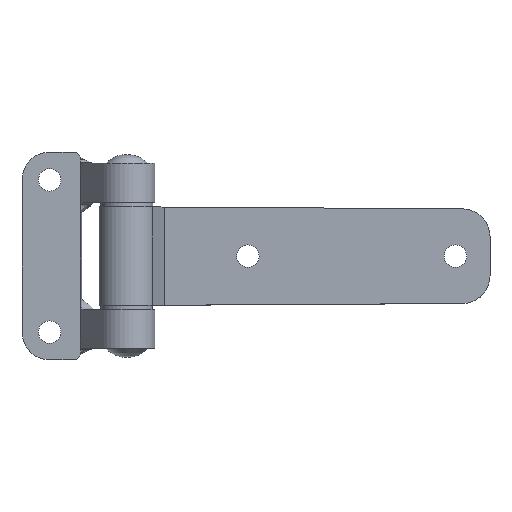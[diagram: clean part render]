
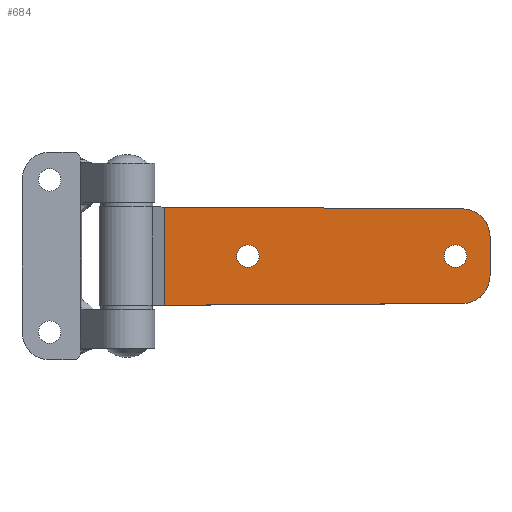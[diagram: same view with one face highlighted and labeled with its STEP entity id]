
A CAD part, top view. The second image highlights one B-rep face of the part: STEP entity #684.
In plain terms, the highlighted planar face has unit normal (0, 0, 1).
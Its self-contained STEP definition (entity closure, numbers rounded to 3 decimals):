
#612 = VERTEX_POINT ( 'NONE', #2694 ) ;
#637 = EDGE_CURVE ( 'NONE', #664, #665, #2574, .T. ) ;
#640 = VERTEX_POINT ( 'NONE', #2568 ) ;
#642 = EDGE_CURVE ( 'NONE', #612, #640, #2561, .T. ) ;
#664 = VERTEX_POINT ( 'NONE', #2690 ) ;
#665 = VERTEX_POINT ( 'NONE', #2685 ) ;
#684 = ADVANCED_FACE ( 'NONE', ( #1978, #1977, #1976 ), #1975, .F. ) ;
#685 = EDGE_CURVE ( 'NONE', #823, #821, #1969, .T. ) ;
#715 = EDGE_CURVE ( 'NONE', #716, #717, #2161, .T. ) ;
#716 = VERTEX_POINT ( 'NONE', #2152 ) ;
#717 = VERTEX_POINT ( 'NONE', #2151 ) ;
#766 = EDGE_CURVE ( 'NONE', #892, #823, #1997, .T. ) ;
#821 = VERTEX_POINT ( 'NONE', #2215 ) ;
#823 = VERTEX_POINT ( 'NONE', #2214 ) ;
#826 = ORIENTED_EDGE ( 'NONE', *, *, #893, .T. ) ;
#831 = EDGE_LOOP ( 'NONE', ( #832, #833 ) ) ;
#832 = ORIENTED_EDGE ( 'NONE', *, *, #715, .F. ) ;
#833 = ORIENTED_EDGE ( 'NONE', *, *, #891, .F. ) ;
#842 = EDGE_LOOP ( 'NONE', ( #917, #919, #940, #826, #843, #844 ) ) ;
#843 = ORIENTED_EDGE ( 'NONE', *, *, #766, .T. ) ;
#844 = ORIENTED_EDGE ( 'NONE', *, *, #685, .T. ) ;
#882 = ORIENTED_EDGE ( 'NONE', *, *, #949, .F. ) ;
#891 = EDGE_CURVE ( 'NONE', #717, #716, #2360, .T. ) ;
#892 = VERTEX_POINT ( 'NONE', #2247 ) ;
#893 = EDGE_CURVE ( 'NONE', #936, #892, #2246, .T. ) ;
#917 = ORIENTED_EDGE ( 'NONE', *, *, #918, .T. ) ;
#918 = EDGE_CURVE ( 'NONE', #821, #612, #2354, .T. ) ;
#919 = ORIENTED_EDGE ( 'NONE', *, *, #642, .T. ) ;
#922 = EDGE_LOOP ( 'NONE', ( #923, #882 ) ) ;
#923 = ORIENTED_EDGE ( 'NONE', *, *, #637, .F. ) ;
#936 = VERTEX_POINT ( 'NONE', #2322 ) ;
#940 = ORIENTED_EDGE ( 'NONE', *, *, #941, .T. ) ;
#941 = EDGE_CURVE ( 'NONE', #640, #936, #2316, .T. ) ;
#949 = EDGE_CURVE ( 'NONE', #665, #664, #2297, .T. ) ;
#1966 = DIRECTION ( 'NONE',  ( 1., 0., 0. ) ) ;
#1967 = DIRECTION ( 'NONE',  ( 0., 0., 1. ) ) ;
#1968 = AXIS2_PLACEMENT_3D ( 'NONE', #1973, #1967, #1966 ) ;
#1969 = CIRCLE ( 'NONE', #1968, 8. ) ;
#1970 = DIRECTION ( 'NONE',  ( -1., 0., 0. ) ) ;
#1971 = DIRECTION ( 'NONE',  ( 0., 0., -1. ) ) ;
#1972 = AXIS2_PLACEMENT_3D ( 'NONE', #1974, #1971, #1970 ) ;
#1973 = CARTESIAN_POINT ( 'NONE',  ( 49.119, 5.696, 4. ) ) ;
#1974 = CARTESIAN_POINT ( 'NONE',  ( 49.119, -5.696, 4. ) ) ;
#1975 = PLANE ( 'NONE',  #1972 ) ;
#1976 = FACE_OUTER_BOUND ( 'NONE', #842, .T. ) ;
#1977 = FACE_BOUND ( 'NONE', #831, .T. ) ;
#1978 = FACE_BOUND ( 'NONE', #922, .T. ) ;
#1994 = DIRECTION ( 'NONE',  ( 0., 1., 0. ) ) ;
#1995 = VECTOR ( 'NONE', #1994, 1000. ) ;
#1996 = CARTESIAN_POINT ( 'NONE',  ( 57.119, 5.696, 4. ) ) ;
#1997 = LINE ( 'NONE', #1996, #1995 ) ;
#2151 = CARTESIAN_POINT ( 'NONE',  ( 50.369, 0., 4. ) ) ;
#2152 = CARTESIAN_POINT ( 'NONE',  ( 43.869, 0., 4. ) ) ;
#2153 = DIRECTION ( 'NONE',  ( 1., 0., 0. ) ) ;
#2154 = DIRECTION ( 'NONE',  ( 0., 0., 1. ) ) ;
#2155 = CARTESIAN_POINT ( 'NONE',  ( 47.119, 0., 4. ) ) ;
#2156 = AXIS2_PLACEMENT_3D ( 'NONE', #2155, #2154, #2153 ) ;
#2161 = CIRCLE ( 'NONE', #2156, 3.25 ) ;
#2185 = DIRECTION ( 'NONE',  ( 1., 0., 0. ) ) ;
#2186 = DIRECTION ( 'NONE',  ( 0., 0., 1. ) ) ;
#2187 = CARTESIAN_POINT ( 'NONE',  ( -12.881, 0., 4. ) ) ;
#2188 = AXIS2_PLACEMENT_3D ( 'NONE', #2187, #2186, #2185 ) ;
#2214 = CARTESIAN_POINT ( 'NONE',  ( 57.119, 5.696, 4. ) ) ;
#2215 = CARTESIAN_POINT ( 'NONE',  ( 49.165, 13.696, 4. ) ) ;
#2242 = DIRECTION ( 'NONE',  ( -1., 0., 0. ) ) ;
#2243 = DIRECTION ( 'NONE',  ( 0., 0., 1. ) ) ;
#2244 = CARTESIAN_POINT ( 'NONE',  ( 49.119, -5.696, 4. ) ) ;
#2245 = AXIS2_PLACEMENT_3D ( 'NONE', #2244, #2243, #2242 ) ;
#2246 = CIRCLE ( 'NONE', #2245, 8. ) ;
#2247 = CARTESIAN_POINT ( 'NONE',  ( 57.119, -5.696, 4. ) ) ;
#2248 = DIRECTION ( 'NONE',  ( 1., 0., 0. ) ) ;
#2249 = DIRECTION ( 'NONE',  ( 0., 0., 1. ) ) ;
#2250 = CARTESIAN_POINT ( 'NONE',  ( 47.119, 0., 4. ) ) ;
#2251 = AXIS2_PLACEMENT_3D ( 'NONE', #2250, #2249, #2248 ) ;
#2297 = CIRCLE ( 'NONE', #2188, 3.25 ) ;
#2310 = DIRECTION ( 'NONE',  ( 1., 0.006, 0. ) ) ;
#2311 = VECTOR ( 'NONE', #2310, 1000. ) ;
#2312 = CARTESIAN_POINT ( 'NONE',  ( -47.379, -14.25, 4. ) ) ;
#2316 = LINE ( 'NONE', #2312, #2311 ) ;
#2322 = CARTESIAN_POINT ( 'NONE',  ( 49.165, -13.696, 4. ) ) ;
#2351 = DIRECTION ( 'NONE',  ( -1., 0.006, 0. ) ) ;
#2352 = VECTOR ( 'NONE', #2351, 1000. ) ;
#2353 = CARTESIAN_POINT ( 'NONE',  ( -47.379, 14.25, 4. ) ) ;
#2354 = LINE ( 'NONE', #2353, #2352 ) ;
#2360 = CIRCLE ( 'NONE', #2251, 3.25 ) ;
#2536 = CARTESIAN_POINT ( 'NONE',  ( -37.103, -14.191, 4. ) ) ;
#2537 = CARTESIAN_POINT ( 'NONE',  ( -37.103, -4.73, 4. ) ) ;
#2538 = CARTESIAN_POINT ( 'NONE',  ( -37.103, 4.73, 4. ) ) ;
#2539 = CARTESIAN_POINT ( 'NONE',  ( -37.103, 14.191, 4. ) ) ;
#2561 = B_SPLINE_CURVE_WITH_KNOTS ( 'NONE', 3,
 ( #2539, #2538, #2537, #2536 ),
 .UNSPECIFIED., .F., .F.,
 ( 4, 4 ),
 ( 0., 1. ),
 .UNSPECIFIED. ) ;
#2568 = CARTESIAN_POINT ( 'NONE',  ( -37.103, -14.191, 4. ) ) ;
#2570 = DIRECTION ( 'NONE',  ( 1., 0., 0. ) ) ;
#2571 = DIRECTION ( 'NONE',  ( 0., 0., 1. ) ) ;
#2572 = CARTESIAN_POINT ( 'NONE',  ( -12.881, 0., 4. ) ) ;
#2573 = AXIS2_PLACEMENT_3D ( 'NONE', #2572, #2571, #2570 ) ;
#2574 = CIRCLE ( 'NONE', #2573, 3.25 ) ;
#2685 = CARTESIAN_POINT ( 'NONE',  ( -9.631, 0., 4. ) ) ;
#2690 = CARTESIAN_POINT ( 'NONE',  ( -16.131, 0., 4. ) ) ;
#2694 = CARTESIAN_POINT ( 'NONE',  ( -37.103, 14.191, 4. ) ) ;
